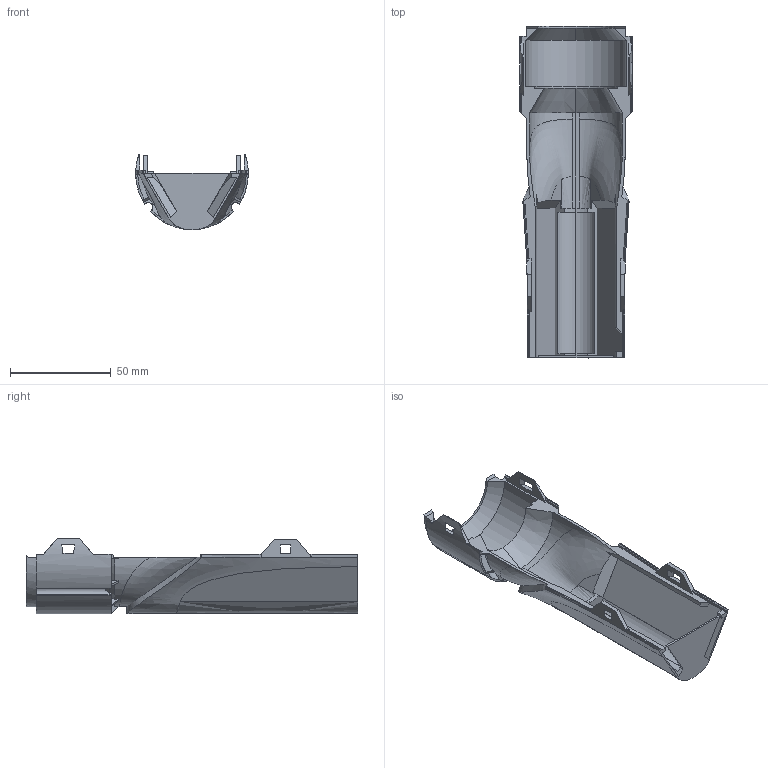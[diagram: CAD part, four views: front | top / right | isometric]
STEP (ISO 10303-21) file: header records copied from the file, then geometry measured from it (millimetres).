
FILE_DESCRIPTION (( 'STEP AP203' ), '1' );
FILE_NAME ('Inner shell_B.STEP', '2025-05-21T03:01:28', ( 'BBL' ), ( 'BBL' ), 'SwSTEP 2.0', 'SolidWorks 2024', '' );
FILE_SCHEMA (( 'CONFIG_CONTROL_DESIGN' ));
Length unit declared in the file: millimetre
Products named in the file (1): Inner shell_B
Bounding box: 55.99 x 165.03 x 37.39 mm (x, y, z)
Volume: 35662.3 mm3; surface area: 34574.2 mm2
Topology: 1 solids, 1 shells, 236 faces, 700 edges, 454 vertices
Faces by surface type: plane 157, cylinder 31, cone 25, bspline 23
Entity records: 33022 total; most frequent: CARTESIAN_POINT 27037, ORIENTED_EDGE 1400, DIRECTION 1015, EDGE_CURVE 700, VERTEX_POINT 454, LINE 403, VECTOR 403, AXIS2_PLACEMENT_3D 306
